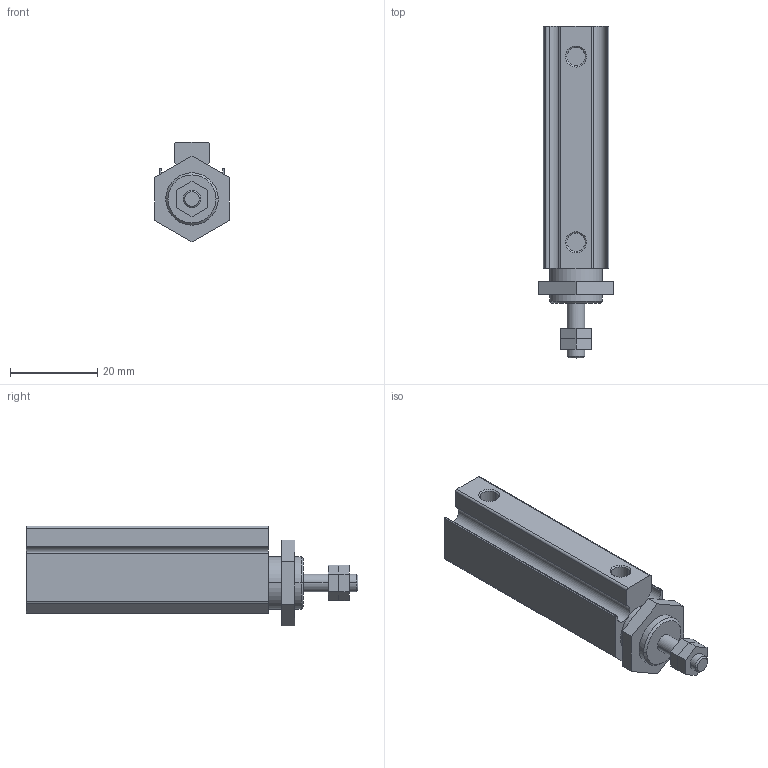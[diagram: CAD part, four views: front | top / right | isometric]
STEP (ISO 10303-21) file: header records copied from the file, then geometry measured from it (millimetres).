
FILE_DESCRIPTION((''),'2;1');
FILE_NAME('B:\CHANTO-3D-已完成\NEW\AAP\AAP-3D\AAP10X30.stp','2010-08-19T19:45:40',('Administrator'),(''),'Autodesk Inventor 8','Autodesk Inventor 8','');
FILE_SCHEMA(('AUTOMOTIVE_DESIGN { 1 0 10303 214 1 1 1 1 }'));
Length unit declared in the file: millimetre
Products named in the file (1): AAP10X30
Bounding box: 17 x 76 x 22.82 mm (x, y, z)
Volume: 14371.4 mm3; surface area: 5771.4 mm2
Topology: 1 solids, 1 shells, 76 faces, 184 edges, 120 vertices
Faces by surface type: plane 40, cylinder 28, cone 8
Entity records: 2251 total; most frequent: DIRECTION 402, CARTESIAN_POINT 381, ORIENTED_EDGE 368, EDGE_CURVE 184, AXIS2_PLACEMENT_3D 141, VERTEX_POINT 120, VECTOR 120, LINE 120
